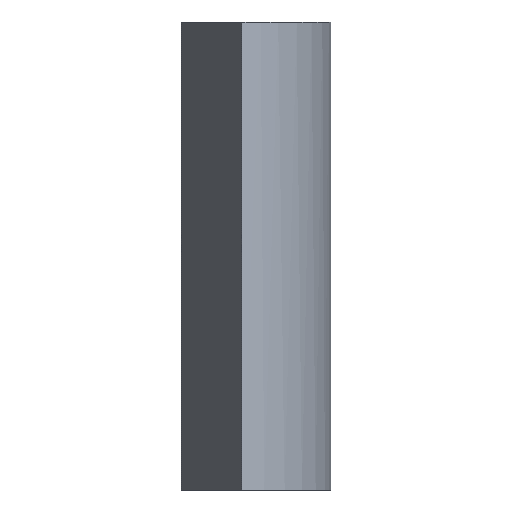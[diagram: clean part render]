
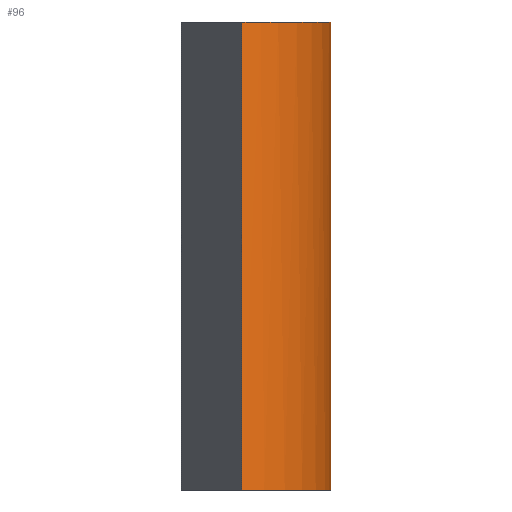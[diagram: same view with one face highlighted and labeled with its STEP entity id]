
A CAD part, left-side view. The second image highlights one B-rep face of the part: STEP entity #96.
In plain terms, the highlighted free-form (B-spline) face has degree [2, 1] with [3, 2] control points.
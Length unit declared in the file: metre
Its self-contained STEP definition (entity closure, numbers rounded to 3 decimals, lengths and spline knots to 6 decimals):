
#96=ADVANCED_FACE('',(#136),#1346,.T.);
#136=FACE_OUTER_BOUND('',#182,.T.);
#182=EDGE_LOOP('',(#341,#342,#343,#344));
#341=ORIENTED_EDGE('',*,*,#1069,.T.);
#342=ORIENTED_EDGE('',*,*,#1070,.T.);
#343=ORIENTED_EDGE('',*,*,#1071,.T.);
#344=ORIENTED_EDGE('',*,*,#1066,.F.);
#530=PCURVE('',#1345,#722);
#533=PCURVE('',#1346,#725);
#534=PCURVE('',#1346,#726);
#535=PCURVE('',#1346,#727);
#536=PCURVE('',#1346,#728);
#540=PCURVE('',#1347,#732);
#563=PCURVE('',#1319,#755);
#570=PCURVE('',#1320,#762);
#722=DEFINITIONAL_REPRESENTATION('',(#866),#2372);
#725=DEFINITIONAL_REPRESENTATION('',(#869),#2372);
#726=DEFINITIONAL_REPRESENTATION('',(#870),#2372);
#727=DEFINITIONAL_REPRESENTATION('',(#871),#2372);
#728=DEFINITIONAL_REPRESENTATION('',(#872),#2372);
#732=DEFINITIONAL_REPRESENTATION('',(#876),#2372);
#755=DEFINITIONAL_REPRESENTATION('',(#1235),#2372);
#762=DEFINITIONAL_REPRESENTATION('',(#1242),#2372);
#866=B_SPLINE_CURVE_WITH_KNOTS('',1,(#2202,#2203),.UNSPECIFIED.,.F.,.F.,
(2,2),(0.,150.),.UNSPECIFIED.);
#869=B_SPLINE_CURVE_WITH_KNOTS('',1,(#2216,#2217),.UNSPECIFIED.,.F.,.F.,
(2,2),(218.202487,252.453503),.UNSPECIFIED.);
#870=B_SPLINE_CURVE_WITH_KNOTS('',1,(#2220,#2221),.UNSPECIFIED.,.F.,.F.,
(2,2),(0.,150.),.UNSPECIFIED.);
#871=B_SPLINE_CURVE_WITH_KNOTS('',1,(#2225,#2226),.UNSPECIFIED.,.F.,.F.,
(2,2),(-252.453503,-218.202487),.UNSPECIFIED.);
#872=B_SPLINE_CURVE_WITH_KNOTS('',1,(#2227,#2228),.UNSPECIFIED.,.F.,.F.,
(2,2),(0.,150.),.UNSPECIFIED.);
#876=B_SPLINE_CURVE_WITH_KNOTS('',1,(#2243,#2244),.UNSPECIFIED.,.F.,.F.,
(2,2),(0.,150.),.UNSPECIFIED.);
#970=SURFACE_CURVE('',#1210,(#530,#536),.PCURVE_S1.);
#973=SURFACE_CURVE('',#1213,(#533,#563),.PCURVE_S1.);
#974=SURFACE_CURVE('',#1214,(#534,#540),.PCURVE_S1.);
#975=SURFACE_CURVE('',#1215,(#535,#570),.PCURVE_S1.);
#1066=EDGE_CURVE('',#1298,#1299,#970,.T.);
#1069=EDGE_CURVE('',#1298,#1301,#973,.T.);
#1070=EDGE_CURVE('',#1301,#1302,#974,.T.);
#1071=EDGE_CURVE('',#1302,#1299,#975,.T.);
#1210=(
BOUNDED_CURVE()
B_SPLINE_CURVE(1,(#2200,#2201),.UNSPECIFIED.,.F.,.F.)
B_SPLINE_CURVE_WITH_KNOTS((2,2),(0.,150.),.UNSPECIFIED.)
CURVE()
GEOMETRIC_REPRESENTATION_ITEM()
RATIONAL_B_SPLINE_CURVE((1.,1.))
REPRESENTATION_ITEM('')
);
#1213=(
BOUNDED_CURVE()
B_SPLINE_CURVE(2,(#2213,#2214,#2215),.UNSPECIFIED.,.F.,.F.)
B_SPLINE_CURVE_WITH_KNOTS((3,3),(218.202487,252.453503),
 .UNSPECIFIED.)
CURVE()
GEOMETRIC_REPRESENTATION_ITEM()
RATIONAL_B_SPLINE_CURVE((1.,0.866,1.))
REPRESENTATION_ITEM('')
);
#1214=(
BOUNDED_CURVE()
B_SPLINE_CURVE(1,(#2218,#2219),.UNSPECIFIED.,.F.,.F.)
B_SPLINE_CURVE_WITH_KNOTS((2,2),(0.,150.),.UNSPECIFIED.)
CURVE()
GEOMETRIC_REPRESENTATION_ITEM()
RATIONAL_B_SPLINE_CURVE((1.,1.))
REPRESENTATION_ITEM('')
);
#1215=(
BOUNDED_CURVE()
B_SPLINE_CURVE(2,(#2222,#2223,#2224),.UNSPECIFIED.,.F.,.F.)
B_SPLINE_CURVE_WITH_KNOTS((3,3),(-252.453503,-218.202487),
 .UNSPECIFIED.)
CURVE()
GEOMETRIC_REPRESENTATION_ITEM()
RATIONAL_B_SPLINE_CURVE((1.,0.866,1.))
REPRESENTATION_ITEM('')
);
#1235=(
BOUNDED_CURVE()
B_SPLINE_CURVE(2,(#2329,#2330,#2331),.UNSPECIFIED.,.F.,.F.)
B_SPLINE_CURVE_WITH_KNOTS((3,3),(218.202487,252.453503),
 .UNSPECIFIED.)
CURVE()
GEOMETRIC_REPRESENTATION_ITEM()
RATIONAL_B_SPLINE_CURVE((1.,0.866,1.))
REPRESENTATION_ITEM('')
);
#1242=(
BOUNDED_CURVE()
B_SPLINE_CURVE(2,(#2350,#2351,#2352),.UNSPECIFIED.,.F.,.F.)
B_SPLINE_CURVE_WITH_KNOTS((3,3),(-252.453503,-218.202487),
 .UNSPECIFIED.)
CURVE()
GEOMETRIC_REPRESENTATION_ITEM()
RATIONAL_B_SPLINE_CURVE((1.,0.866,1.))
REPRESENTATION_ITEM('')
);
#1298=VERTEX_POINT('',#2180);
#1299=VERTEX_POINT('',#2181);
#1301=VERTEX_POINT('',#2183);
#1302=VERTEX_POINT('',#2184);
#1319=B_SPLINE_SURFACE_WITH_KNOTS('',1,1,((#2171,#2172),(#2173,#2174)),
 .UNSPECIFIED.,.F.,.F.,.F.,(2,2),(2,2),(-10.792282,97.130539),
(-39.41672,71.731108),.UNSPECIFIED.);
#1320=B_SPLINE_SURFACE_WITH_KNOTS('',1,1,((#2175,#2176),(#2177,#2178)),
 .UNSPECIFIED.,.F.,.F.,.F.,(2,2),(2,2),(-39.41672,71.731108),
(-10.792282,97.130539),.UNSPECIFIED.);
#1345=(
BOUNDED_SURFACE()
B_SPLINE_SURFACE(2,1,((#2123,#2124),(#2125,#2126),(#2127,#2128)),
 .UNSPECIFIED.,.F.,.F.,.F.)
B_SPLINE_SURFACE_WITH_KNOTS((3,3),(2,2),(153.452438,218.202487),
(0.,150.),.UNSPECIFIED.)
GEOMETRIC_REPRESENTATION_ITEM()
RATIONAL_B_SPLINE_SURFACE(((1.,1.),(1.,1.),(1.,1.)))
REPRESENTATION_ITEM('')
SURFACE()
);
#1346=(
BOUNDED_SURFACE()
B_SPLINE_SURFACE(2,1,((#2129,#2130),(#2131,#2132),(#2133,#2134)),
 .UNSPECIFIED.,.F.,.F.,.F.)
B_SPLINE_SURFACE_WITH_KNOTS((3,3),(2,2),(218.202487,252.453503),
(0.,150.),.UNSPECIFIED.)
GEOMETRIC_REPRESENTATION_ITEM()
RATIONAL_B_SPLINE_SURFACE(((1.,1.),(0.866,0.866),
(1.,1.)))
REPRESENTATION_ITEM('')
SURFACE()
);
#1347=(
BOUNDED_SURFACE()
B_SPLINE_SURFACE(2,1,((#2135,#2136),(#2137,#2138),(#2139,#2140)),
 .UNSPECIFIED.,.F.,.F.,.F.)
B_SPLINE_SURFACE_WITH_KNOTS((3,3),(2,2),(252.453503,317.206296),
(0.,150.),.UNSPECIFIED.)
GEOMETRIC_REPRESENTATION_ITEM()
RATIONAL_B_SPLINE_SURFACE(((1.,1.),(1.,1.),(1.,1.)))
REPRESENTATION_ITEM('')
SURFACE()
);
#2123=CARTESIAN_POINT('',(-57408.995271,-4547.661743,-1.5));
#2124=CARTESIAN_POINT('',(-57408.995271,-4547.661743,268.5));
#2125=CARTESIAN_POINT('',(-57439.303433,-4565.166471,-1.5));
#2126=CARTESIAN_POINT('',(-57439.303433,-4565.166471,268.5));
#2127=CARTESIAN_POINT('',(-57469.611596,-4582.671199,-1.5));
#2128=CARTESIAN_POINT('',(-57469.611596,-4582.671199,268.5));
#2129=CARTESIAN_POINT('',(-57469.611596,-4582.671199,-1.5));
#2130=CARTESIAN_POINT('',(-57469.611596,-4582.671199,268.5));
#2131=CARTESIAN_POINT('',(-57439.958719,-4633.984871,-1.5));
#2132=CARTESIAN_POINT('',(-57439.958719,-4633.984871,268.5));
#2133=CARTESIAN_POINT('',(-57380.693334,-4634.,-1.5));
#2134=CARTESIAN_POINT('',(-57380.693334,-4634.,268.5));
#2135=CARTESIAN_POINT('',(-57380.693334,-4634.,-1.5));
#2136=CARTESIAN_POINT('',(-57380.693334,-4634.,268.5));
#2137=CARTESIAN_POINT('',(-57380.695519,-4598.999995,-1.5));
#2138=CARTESIAN_POINT('',(-57380.695519,-4598.999995,268.5));
#2139=CARTESIAN_POINT('',(-57380.697705,-4563.999989,-1.5));
#2140=CARTESIAN_POINT('',(-57380.697705,-4563.999989,268.5));
#2171=CARTESIAN_POINT('',(-57369.578551,-4536.869461,-1.5));
#2172=CARTESIAN_POINT('',(-57480.726379,-4536.869461,-1.5));
#2173=CARTESIAN_POINT('',(-57369.578551,-4644.792282,-1.5));
#2174=CARTESIAN_POINT('',(-57480.726379,-4644.792282,-1.5));
#2175=CARTESIAN_POINT('',(-57369.578551,-4536.869461,268.5));
#2176=CARTESIAN_POINT('',(-57369.578551,-4644.792282,268.5));
#2177=CARTESIAN_POINT('',(-57480.726379,-4536.869461,268.5));
#2178=CARTESIAN_POINT('',(-57480.726379,-4644.792282,268.5));
#2180=CARTESIAN_POINT('',(-57469.611596,-4582.671199,-1.5));
#2181=CARTESIAN_POINT('',(-57469.611596,-4582.671199,268.5));
#2183=CARTESIAN_POINT('',(-57380.693334,-4634.,-1.5));
#2184=CARTESIAN_POINT('',(-57380.693334,-4634.,268.5));
#2200=CARTESIAN_POINT('',(-57469.611596,-4582.671199,-1.5));
#2201=CARTESIAN_POINT('',(-57469.611596,-4582.671199,268.5));
#2202=CARTESIAN_POINT('',(218.202,0.));
#2203=CARTESIAN_POINT('',(218.202,150.));
#2213=CARTESIAN_POINT('',(-57469.611596,-4582.671199,-1.5));
#2214=CARTESIAN_POINT('',(-57439.958719,-4633.984871,-1.5));
#2215=CARTESIAN_POINT('',(-57380.693334,-4634.,-1.5));
#2216=CARTESIAN_POINT('',(218.202,0.));
#2217=CARTESIAN_POINT('',(252.454,0.));
#2218=CARTESIAN_POINT('',(-57380.693334,-4634.,-1.5));
#2219=CARTESIAN_POINT('',(-57380.693334,-4634.,268.5));
#2220=CARTESIAN_POINT('',(252.454,0.));
#2221=CARTESIAN_POINT('',(252.454,150.));
#2222=CARTESIAN_POINT('',(-57380.693334,-4634.,268.5));
#2223=CARTESIAN_POINT('',(-57439.958719,-4633.984871,268.5));
#2224=CARTESIAN_POINT('',(-57469.611596,-4582.671199,268.5));
#2225=CARTESIAN_POINT('',(252.454,150.));
#2226=CARTESIAN_POINT('',(218.202,150.));
#2227=CARTESIAN_POINT('',(218.202,0.));
#2228=CARTESIAN_POINT('',(218.202,150.));
#2243=CARTESIAN_POINT('',(252.454,0.));
#2244=CARTESIAN_POINT('',(252.454,150.));
#2329=CARTESIAN_POINT('',(35.009,60.616));
#2330=CARTESIAN_POINT('',(86.323,30.963));
#2331=CARTESIAN_POINT('',(86.338,-28.302));
#2350=CARTESIAN_POINT('',(-28.302,86.338));
#2351=CARTESIAN_POINT('',(30.963,86.323));
#2352=CARTESIAN_POINT('',(60.616,35.009));
#2372=(
GEOMETRIC_REPRESENTATION_CONTEXT(2)
PARAMETRIC_REPRESENTATION_CONTEXT()
REPRESENTATION_CONTEXT('pspace','')
);
